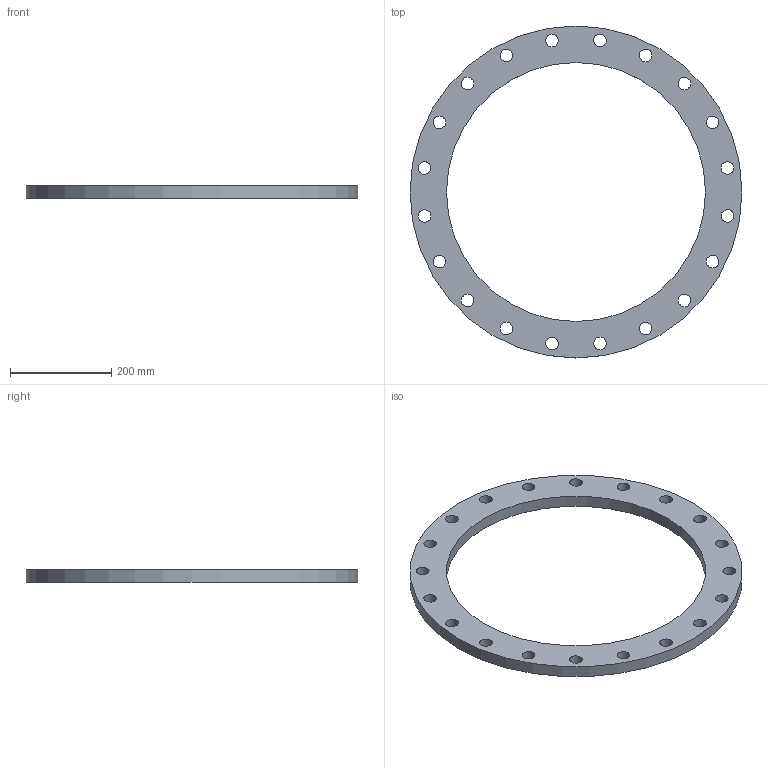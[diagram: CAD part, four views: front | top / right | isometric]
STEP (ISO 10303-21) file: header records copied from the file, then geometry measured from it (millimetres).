
FILE_DESCRIPTION(/* description */ (''),/* implementation_level */ '2;1');
FILE_NAME(/* name */ 'C:\Users\D\Documents\Inventor\HP\JIS\フランジ\JIS 5k sop ff\jis5k-sop-ff-500.stp',/* time_stamp */ '2024-09-12T16:54:16+09:00',/* author */ ('D'),/* organization */ (''),/* preprocessor_version */ 'ST-DEVELOPER v18',/* originating_system */ 'Autodesk Inventor 2020',/* authorisation */ '');
FILE_SCHEMA (('AUTOMOTIVE_DESIGN { 1 0 10303 214 3 1 1 }'));
Length unit declared in the file: millimetre
Products named in the file (1): jis5k-sop-rf-10
Bounding box: 655 x 655 x 24 mm (x, y, z)
Volume: 2929296.4 mm3; surface area: 369721.5 mm2
Topology: 1 solids, 1 shells, 24 faces, 89 edges, 67 vertices
Faces by surface type: cylinder 22, plane 2
Full cylindrical faces by diameter (mm): 25 x20, 511 x1, 655 x1
Entity records: 1149 total; most frequent: DIRECTION 206, CARTESIAN_POINT 181, ORIENTED_EDGE 178, AXIS2_PLACEMENT_3D 92, EDGE_CURVE 89, CIRCLE 67, VERTEX_POINT 67, EDGE_LOOP 66
